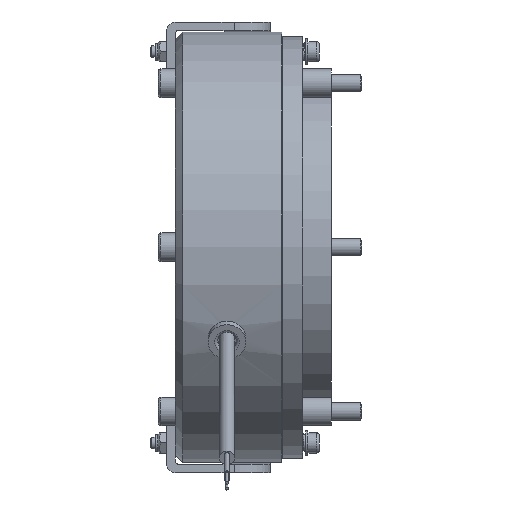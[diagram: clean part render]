
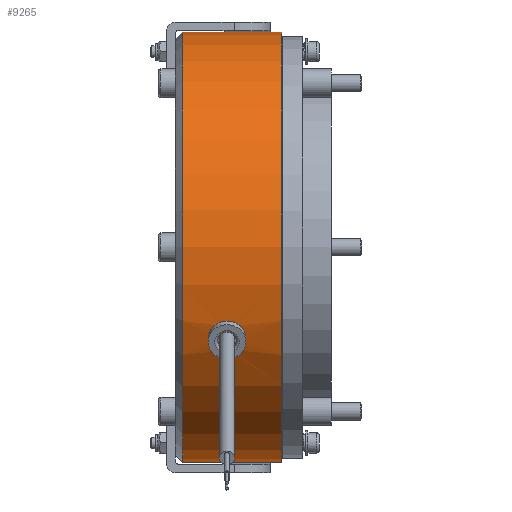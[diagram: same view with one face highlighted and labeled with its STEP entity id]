
A CAD part, front view. The second image highlights one B-rep face of the part: STEP entity #9265.
In plain terms, the highlighted cylindrical face has radius 75 mm (diameter 150 mm), a full revolution.
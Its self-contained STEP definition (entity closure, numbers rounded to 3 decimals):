
#154=B_SPLINE_CURVE_WITH_KNOTS('',3,(#16489,#16490,#16491,#16492,#16493,
#16494,#16495,#16496,#16497,#16498,#16499,#16500,#16501,#16502,#16503,#16504,
#16505,#16506),.UNSPECIFIED.,.F.,.F.,(4,2,2,2,2,2,2,2,4),(0.767,
0.959,1.151,1.343,1.535,1.726,
1.918,2.11,2.302),.UNSPECIFIED.);
#155=B_SPLINE_CURVE_WITH_KNOTS('',3,(#16509,#16510,#16511,#16512,#16513,
#16514,#16515,#16516,#16517,#16518,#16519,#16520,#16521,#16522,#16523,#16524,
#16525,#16526,#16527),.UNSPECIFIED.,.F.,.F.,(4,2,2,2,3,2,2,2,4),(2.302,
2.494,2.686,2.877,3.069,3.261,
3.452,3.644,3.836),.UNSPECIFIED.);
#425=CYLINDRICAL_SURFACE('',#10026,75.);
#656=FACE_BOUND('',#1994,.T.);
#895=CIRCLE('',#9908,75.);
#896=CIRCLE('',#9909,75.);
#945=CIRCLE('',#10012,75.);
#946=CIRCLE('',#10013,75.);
#1478=FACE_OUTER_BOUND('',#1993,.T.);
#1993=EDGE_LOOP('',(#6981,#6982,#6983,#6984,#6985,#6986));
#1994=EDGE_LOOP('',(#6987,#6988,#6989,#6990,#6991,#6992));
#2544=LINE('',#16484,#3049);
#2545=LINE('',#16487,#3050);
#2546=LINE('',#16508,#3051);
#3049=VECTOR('',#11780,75.);
#3050=VECTOR('',#11781,10.);
#3051=VECTOR('',#11782,10.);
#3744=VERTEX_POINT('',#16067);
#3745=VERTEX_POINT('',#16068);
#3837=VERTEX_POINT('',#16455);
#3838=VERTEX_POINT('',#16456);
#3848=VERTEX_POINT('',#16485);
#3849=VERTEX_POINT('',#16486);
#3850=VERTEX_POINT('',#16488);
#3851=VERTEX_POINT('',#16507);
#4834=EDGE_CURVE('',#3744,#3745,#895,.T.);
#4835=EDGE_CURVE('',#3745,#3744,#896,.T.);
#4972=EDGE_CURVE('',#3837,#3838,#945,.T.);
#4973=EDGE_CURVE('',#3838,#3837,#946,.T.);
#4987=EDGE_CURVE('',#3745,#3838,#2544,.T.);
#4988=EDGE_CURVE('',#3848,#3849,#2545,.T.);
#4989=EDGE_CURVE('',#3849,#3850,#154,.T.);
#4990=EDGE_CURVE('',#3850,#3851,#2546,.T.);
#4991=EDGE_CURVE('',#3850,#3849,#155,.T.);
#6981=ORIENTED_EDGE('',*,*,#4834,.F.);
#6982=ORIENTED_EDGE('',*,*,#4835,.F.);
#6983=ORIENTED_EDGE('',*,*,#4987,.T.);
#6984=ORIENTED_EDGE('',*,*,#4972,.F.);
#6985=ORIENTED_EDGE('',*,*,#4973,.F.);
#6986=ORIENTED_EDGE('',*,*,#4987,.F.);
#6987=ORIENTED_EDGE('',*,*,#4988,.F.);
#6988=ORIENTED_EDGE('',*,*,#4988,.T.);
#6989=ORIENTED_EDGE('',*,*,#4989,.T.);
#6990=ORIENTED_EDGE('',*,*,#4990,.T.);
#6991=ORIENTED_EDGE('',*,*,#4990,.F.);
#6992=ORIENTED_EDGE('',*,*,#4991,.T.);
#9265=ADVANCED_FACE('',(#1478,#656),#425,.T.);
#9908=AXIS2_PLACEMENT_3D('',#16069,#11481,#11482);
#9909=AXIS2_PLACEMENT_3D('',#16070,#11483,#11484);
#10012=AXIS2_PLACEMENT_3D('',#16457,#11747,#11748);
#10013=AXIS2_PLACEMENT_3D('',#16458,#11749,#11750);
#10026=AXIS2_PLACEMENT_3D('',#16483,#11778,#11779);
#11481=DIRECTION('center_axis',(1.,0.,0.));
#11482=DIRECTION('ref_axis',(0.,1.,0.));
#11483=DIRECTION('center_axis',(1.,0.,0.));
#11484=DIRECTION('ref_axis',(0.,1.,0.));
#11747=DIRECTION('center_axis',(-1.,0.,0.));
#11748=DIRECTION('ref_axis',(0.,-1.,0.));
#11749=DIRECTION('center_axis',(-1.,0.,0.));
#11750=DIRECTION('ref_axis',(0.,-1.,0.));
#11778=DIRECTION('center_axis',(1.,0.,0.));
#11779=DIRECTION('ref_axis',(0.,1.,0.));
#11780=DIRECTION('',(-1.,0.,0.));
#11781=DIRECTION('',(1.,0.,0.));
#11782=DIRECTION('',(1.,0.,0.));
#16067=CARTESIAN_POINT('',(0.,0.,-75.));
#16068=CARTESIAN_POINT('',(0.,-75.,0.));
#16069=CARTESIAN_POINT('Origin',(0.,0.,0.));
#16070=CARTESIAN_POINT('Origin',(0.,0.,0.));
#16455=CARTESIAN_POINT('',(-34.6,75.,0.));
#16456=CARTESIAN_POINT('',(-34.6,-75.,0.));
#16457=CARTESIAN_POINT('Origin',(-34.6,0.,0.));
#16458=CARTESIAN_POINT('Origin',(-34.6,0.,0.));
#16483=CARTESIAN_POINT('Origin',(-18.55,0.,0.));
#16484=CARTESIAN_POINT('',(-18.55,-75.,0.));
#16485=CARTESIAN_POINT('',(-25.7,-67.973,-31.696));
#16486=CARTESIAN_POINT('',(-24.2,-67.973,-31.696));
#16487=CARTESIAN_POINT('',(-26.,-67.973,-31.696));
#16488=CARTESIAN_POINT('',(-14.,-67.973,-31.696));
#16489=CARTESIAN_POINT('Ctrl Pts',(-24.2,-67.973,-31.696));
#16490=CARTESIAN_POINT('Ctrl Pts',(-24.2,-68.243,-31.117));
#16491=CARTESIAN_POINT('Ctrl Pts',(-24.071,-68.523,
-30.495));
#16492=CARTESIAN_POINT('Ctrl Pts',(-23.549,-69.024,-29.345));
#16493=CARTESIAN_POINT('Ctrl Pts',(-23.156,-69.244,
-28.818));
#16494=CARTESIAN_POINT('Ctrl Pts',(-22.249,-69.586,
-27.983));
#16495=CARTESIAN_POINT('Ctrl Pts',(-21.676,-69.73,
-27.62));
#16496=CARTESIAN_POINT('Ctrl Pts',(-20.421,-69.919,
-27.138));
#16497=CARTESIAN_POINT('Ctrl Pts',(-19.739,-69.964,
-27.019));
#16498=CARTESIAN_POINT('Ctrl Pts',(-18.461,-69.964,
-27.019));
#16499=CARTESIAN_POINT('Ctrl Pts',(-17.779,-69.919,
-27.138));
#16500=CARTESIAN_POINT('Ctrl Pts',(-16.524,-69.73,
-27.62));
#16501=CARTESIAN_POINT('Ctrl Pts',(-15.951,-69.586,
-27.983));
#16502=CARTESIAN_POINT('Ctrl Pts',(-15.044,-69.244,
-28.818));
#16503=CARTESIAN_POINT('Ctrl Pts',(-14.651,-69.024,-29.345));
#16504=CARTESIAN_POINT('Ctrl Pts',(-14.129,-68.523,
-30.495));
#16505=CARTESIAN_POINT('Ctrl Pts',(-14.,-68.243,-31.117));
#16506=CARTESIAN_POINT('Ctrl Pts',(-14.,-67.973,-31.696));
#16507=CARTESIAN_POINT('',(-12.5,-67.973,-31.696));
#16508=CARTESIAN_POINT('',(-18.55,-67.973,-31.696));
#16509=CARTESIAN_POINT('Ctrl Pts',(-14.,-67.973,-31.696));
#16510=CARTESIAN_POINT('Ctrl Pts',(-14.,-67.702,-32.277));
#16511=CARTESIAN_POINT('Ctrl Pts',(-14.129,-67.406,
-32.891));
#16512=CARTESIAN_POINT('Ctrl Pts',(-14.652,-66.846,
-34.014));
#16513=CARTESIAN_POINT('Ctrl Pts',(-15.046,-66.584,-34.523));
#16514=CARTESIAN_POINT('Ctrl Pts',(-15.953,-66.164,
-35.32));
#16515=CARTESIAN_POINT('Ctrl Pts',(-16.526,-65.979,
-35.663));
#16516=CARTESIAN_POINT('Ctrl Pts',(-17.78,-65.731,
-36.117));
#16517=CARTESIAN_POINT('Ctrl Pts',(-18.462,-65.67,
-36.228));
#16518=CARTESIAN_POINT('Ctrl Pts',(-19.1,-65.67,-36.228));
#16519=CARTESIAN_POINT('Ctrl Pts',(-19.739,-65.67,
-36.228));
#16520=CARTESIAN_POINT('Ctrl Pts',(-20.421,-65.731,
-36.117));
#16521=CARTESIAN_POINT('Ctrl Pts',(-21.676,-65.979,
-35.662));
#16522=CARTESIAN_POINT('Ctrl Pts',(-22.249,-66.165,-35.319));
#16523=CARTESIAN_POINT('Ctrl Pts',(-23.156,-66.585,-34.52));
#16524=CARTESIAN_POINT('Ctrl Pts',(-23.549,-66.847,-34.012));
#16525=CARTESIAN_POINT('Ctrl Pts',(-24.071,-67.406,
-32.89));
#16526=CARTESIAN_POINT('Ctrl Pts',(-24.2,-67.703,-32.276));
#16527=CARTESIAN_POINT('Ctrl Pts',(-24.2,-67.973,-31.696));
